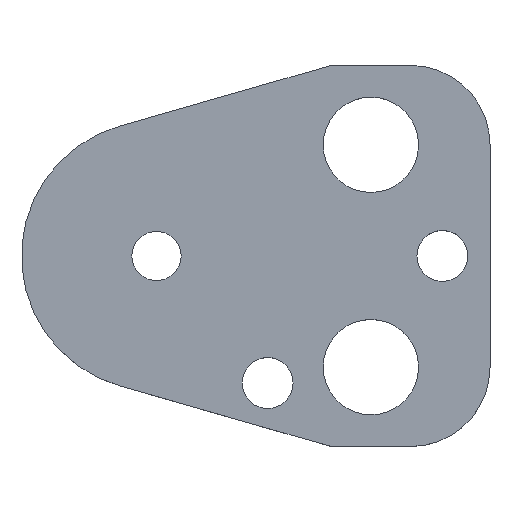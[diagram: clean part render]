
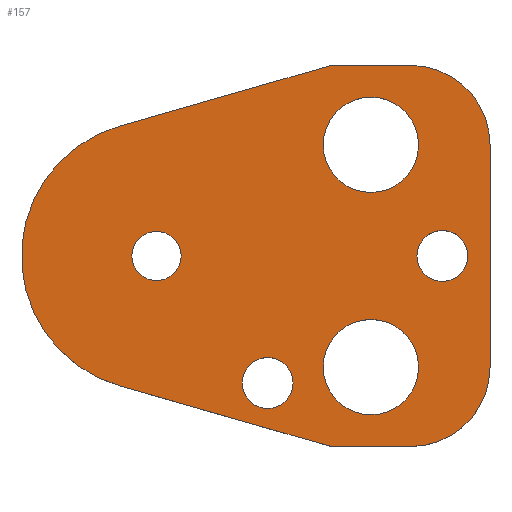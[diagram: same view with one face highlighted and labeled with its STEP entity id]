
A CAD part, top view. The second image highlights one B-rep face of the part: STEP entity #157.
In plain terms, the highlighted planar face has unit normal (0, 0, 1).
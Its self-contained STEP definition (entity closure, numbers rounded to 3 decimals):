
#103=FACE_BOUND('',#207,.T.);
#104=FACE_BOUND('',#208,.T.);
#105=FACE_BOUND('',#209,.T.);
#106=FACE_BOUND('',#210,.T.);
#107=FACE_BOUND('',#211,.T.);
#108=FACE_BOUND('',#212,.T.);
#122=CIRCLE('',#480,10.);
#124=CIRCLE('',#484,10.);
#127=CIRCLE('',#490,17.);
#138=CIRCLE('',#503,3.2);
#139=CIRCLE('',#504,3.2);
#140=CIRCLE('',#505,6.);
#141=CIRCLE('',#506,6.);
#142=CIRCLE('',#507,6.);
#143=CIRCLE('',#508,6.);
#144=CIRCLE('',#509,3.2);
#145=CIRCLE('',#510,3.2);
#146=CIRCLE('',#511,3.1);
#147=CIRCLE('',#512,3.1);
#157=ADVANCED_FACE('',(#103,#104,#105,#106,#107,#108),#174,.T.);
#174=PLANE('',#513);
#207=EDGE_LOOP('',(#273,#274,#275,#276,#277,#278,#279,#280));
#208=EDGE_LOOP('',(#281,#282));
#209=EDGE_LOOP('',(#283,#284));
#210=EDGE_LOOP('',(#285,#286));
#211=EDGE_LOOP('',(#287,#288));
#212=EDGE_LOOP('',(#289,#290));
#273=ORIENTED_EDGE('',*,*,#368,.T.);
#274=ORIENTED_EDGE('',*,*,#372,.T.);
#275=ORIENTED_EDGE('',*,*,#375,.T.);
#276=ORIENTED_EDGE('',*,*,#378,.T.);
#277=ORIENTED_EDGE('',*,*,#381,.T.);
#278=ORIENTED_EDGE('',*,*,#384,.T.);
#279=ORIENTED_EDGE('',*,*,#387,.T.);
#280=ORIENTED_EDGE('',*,*,#390,.T.);
#281=ORIENTED_EDGE('',*,*,#401,.T.);
#282=ORIENTED_EDGE('',*,*,#402,.T.);
#283=ORIENTED_EDGE('',*,*,#403,.T.);
#284=ORIENTED_EDGE('',*,*,#404,.T.);
#285=ORIENTED_EDGE('',*,*,#405,.T.);
#286=ORIENTED_EDGE('',*,*,#406,.T.);
#287=ORIENTED_EDGE('',*,*,#407,.T.);
#288=ORIENTED_EDGE('',*,*,#408,.T.);
#289=ORIENTED_EDGE('',*,*,#409,.T.);
#290=ORIENTED_EDGE('',*,*,#410,.T.);
#332=VERTEX_POINT('',#649);
#333=VERTEX_POINT('',#651);
#336=VERTEX_POINT('',#658);
#338=VERTEX_POINT('',#664);
#340=VERTEX_POINT('',#670);
#342=VERTEX_POINT('',#676);
#344=VERTEX_POINT('',#682);
#346=VERTEX_POINT('',#688);
#357=VERTEX_POINT('',#717);
#358=VERTEX_POINT('',#718);
#359=VERTEX_POINT('',#721);
#360=VERTEX_POINT('',#722);
#361=VERTEX_POINT('',#725);
#362=VERTEX_POINT('',#726);
#363=VERTEX_POINT('',#729);
#364=VERTEX_POINT('',#730);
#365=VERTEX_POINT('',#733);
#366=VERTEX_POINT('',#734);
#368=EDGE_CURVE('',#333,#332,#422,.T.);
#372=EDGE_CURVE('',#332,#336,#426,.T.);
#375=EDGE_CURVE('',#336,#338,#122,.T.);
#378=EDGE_CURVE('',#338,#340,#430,.T.);
#381=EDGE_CURVE('',#340,#342,#124,.T.);
#384=EDGE_CURVE('',#342,#344,#434,.T.);
#387=EDGE_CURVE('',#344,#346,#437,.T.);
#390=EDGE_CURVE('',#346,#333,#127,.T.);
#401=EDGE_CURVE('',#357,#358,#138,.T.);
#402=EDGE_CURVE('',#358,#357,#139,.T.);
#403=EDGE_CURVE('',#359,#360,#140,.T.);
#404=EDGE_CURVE('',#360,#359,#141,.T.);
#405=EDGE_CURVE('',#361,#362,#142,.T.);
#406=EDGE_CURVE('',#362,#361,#143,.T.);
#407=EDGE_CURVE('',#363,#364,#144,.T.);
#408=EDGE_CURVE('',#364,#363,#145,.T.);
#409=EDGE_CURVE('',#365,#366,#146,.T.);
#410=EDGE_CURVE('',#366,#365,#147,.T.);
#422=LINE('',#650,#450);
#426=LINE('',#659,#454);
#430=LINE('',#671,#458);
#434=LINE('',#683,#462);
#437=LINE('',#689,#465);
#450=VECTOR('',#527,1.);
#454=VECTOR('',#533,1.);
#458=VECTOR('',#545,1.);
#462=VECTOR('',#557,1.);
#465=VECTOR('',#562,1.);
#480=AXIS2_PLACEMENT_3D('',#665,#538,#539);
#484=AXIS2_PLACEMENT_3D('',#677,#550,#551);
#490=AXIS2_PLACEMENT_3D('',#693,#568,#569);
#503=AXIS2_PLACEMENT_3D('',#716,#594,#595);
#504=AXIS2_PLACEMENT_3D('',#719,#596,#597);
#505=AXIS2_PLACEMENT_3D('',#720,#598,#599);
#506=AXIS2_PLACEMENT_3D('',#723,#600,#601);
#507=AXIS2_PLACEMENT_3D('',#724,#602,#603);
#508=AXIS2_PLACEMENT_3D('',#727,#604,#605);
#509=AXIS2_PLACEMENT_3D('',#728,#606,#607);
#510=AXIS2_PLACEMENT_3D('',#731,#608,#609);
#511=AXIS2_PLACEMENT_3D('',#732,#610,#611);
#512=AXIS2_PLACEMENT_3D('',#735,#612,#613);
#513=AXIS2_PLACEMENT_3D('',#736,#614,#615);
#527=DIRECTION('',(0.961,-0.276,0.));
#533=DIRECTION('',(1.,0.,0.));
#538=DIRECTION('',(0.,0.,1.));
#539=DIRECTION('',(-0.707,0.707,0.));
#545=DIRECTION('',(0.,1.,0.));
#550=DIRECTION('',(0.,0.,1.));
#551=DIRECTION('',(-0.707,-0.707,0.));
#557=DIRECTION('',(-1.,0.,0.));
#562=DIRECTION('',(-0.961,-0.276,0.));
#568=DIRECTION('',(0.,0.,1.));
#569=DIRECTION('',(1.,0.,0.));
#594=DIRECTION('',(0.,0.,-1.));
#595=DIRECTION('',(-1.,0.,0.));
#596=DIRECTION('',(0.,0.,-1.));
#597=DIRECTION('',(1.,0.,0.));
#598=DIRECTION('',(0.,0.,-1.));
#599=DIRECTION('',(-1.,0.,0.));
#600=DIRECTION('',(0.,0.,-1.));
#601=DIRECTION('',(1.,0.,0.));
#602=DIRECTION('',(0.,0.,-1.));
#603=DIRECTION('',(-1.,0.,0.));
#604=DIRECTION('',(0.,0.,-1.));
#605=DIRECTION('',(1.,0.,0.));
#606=DIRECTION('',(0.,0.,-1.));
#607=DIRECTION('',(-1.,0.,0.));
#608=DIRECTION('',(0.,0.,-1.));
#609=DIRECTION('',(1.,0.,0.));
#610=DIRECTION('',(0.,0.,-1.));
#611=DIRECTION('',(-1.,0.,0.));
#612=DIRECTION('',(0.,0.,-1.));
#613=DIRECTION('',(1.,0.,0.));
#614=DIRECTION('',(0.,0.,1.));
#615=DIRECTION('',(0.961,-0.276,0.));
#649=CARTESIAN_POINT('',(22.,-24.,5.));
#650=CARTESIAN_POINT('',(22.,-24.,5.));
#651=CARTESIAN_POINT('',(-4.69,-16.34,5.));
#658=CARTESIAN_POINT('',(32.,-24.,5.));
#659=CARTESIAN_POINT('',(22.,-24.,5.));
#664=CARTESIAN_POINT('',(42.,-14.,5.));
#665=CARTESIAN_POINT('',(32.,-14.,5.));
#670=CARTESIAN_POINT('',(42.,14.,5.));
#671=CARTESIAN_POINT('',(42.,14.,5.));
#676=CARTESIAN_POINT('',(32.,24.,5.));
#677=CARTESIAN_POINT('',(32.,14.,5.));
#682=CARTESIAN_POINT('',(22.,24.,5.));
#683=CARTESIAN_POINT('',(22.,24.,5.));
#688=CARTESIAN_POINT('',(-4.69,16.34,5.));
#689=CARTESIAN_POINT('',(22.,24.,5.));
#693=CARTESIAN_POINT('',(0.,0.,5.));
#716=CARTESIAN_POINT('',(36.,0.,5.));
#717=CARTESIAN_POINT('',(36.,3.2,5.));
#718=CARTESIAN_POINT('',(36.,-3.2,5.));
#719=CARTESIAN_POINT('',(36.,0.,5.));
#720=CARTESIAN_POINT('',(27.,14.,5.));
#721=CARTESIAN_POINT('',(27.,20.,5.));
#722=CARTESIAN_POINT('',(27.,8.,5.));
#723=CARTESIAN_POINT('',(27.,14.,5.));
#724=CARTESIAN_POINT('',(27.,-14.,5.));
#725=CARTESIAN_POINT('',(27.,-8.,5.));
#726=CARTESIAN_POINT('',(27.,-20.,5.));
#727=CARTESIAN_POINT('',(27.,-14.,5.));
#728=CARTESIAN_POINT('',(14.,-16.,5.));
#729=CARTESIAN_POINT('',(14.,-12.8,5.));
#730=CARTESIAN_POINT('',(14.,-19.2,5.));
#731=CARTESIAN_POINT('',(14.,-16.,5.));
#732=CARTESIAN_POINT('',(0.,0.,5.));
#733=CARTESIAN_POINT('',(0.,3.1,5.));
#734=CARTESIAN_POINT('',(0.,-3.1,5.));
#735=CARTESIAN_POINT('',(0.,0.,5.));
#736=CARTESIAN_POINT('',(-4.69,-16.34,5.));
